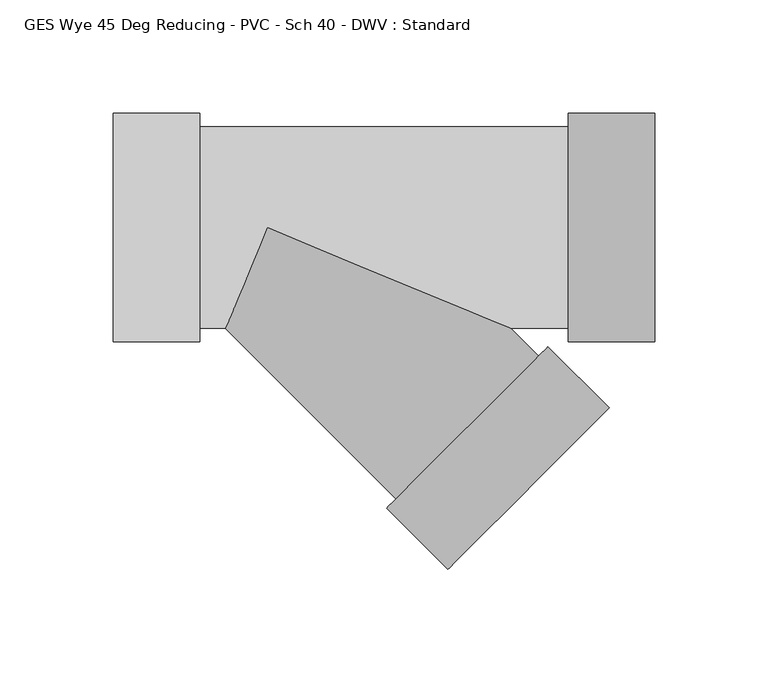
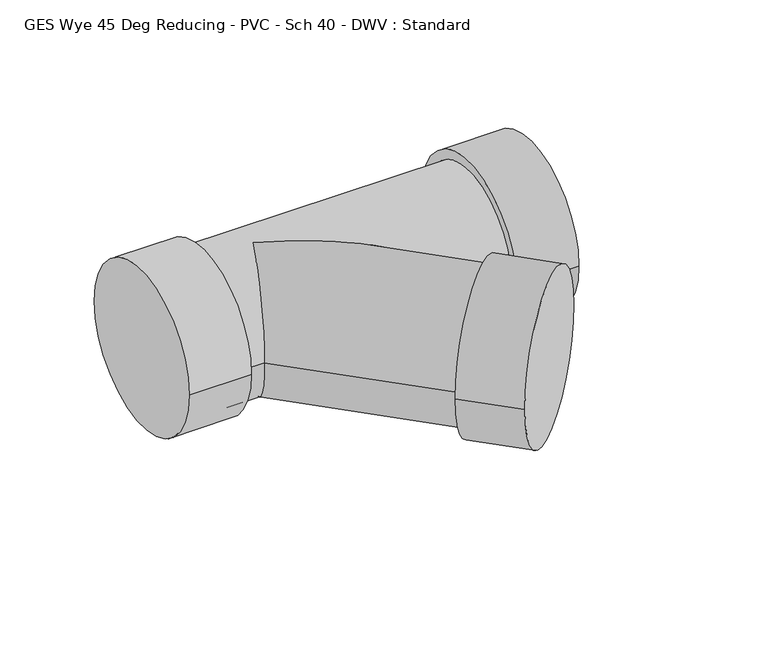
"""IFC4 building model written with IfcOpenShell, lengths in millimetres: pipe fitting geometry, GES Wye 45 Deg Reducing - PVC - Sch 40 - DWV : Standard."""

from ifc_helpers import new_model, si_unit, frame, origin, place, context, project, spatial, circle_curve, ellipse_curve, source, transform, mapped, element, save
from ifc_brep_helpers import plane_surface, cylinder_surface, advanced_brep


def ges_wye_45_deg_reducing_pvc_sch_40_dwv_standard_746e6be9(model_context):
    return source(origin(), model_context, "Body", "AdvancedBrep", [
        advanced_brep(
        [(-29.6902187, 50.2666, 0.0), (-29.6902187, -50.2666, 0.0), (-29.6902187, 44.45, 0.0), (-29.6902187, -44.45, 0.0), (-67.7902187, 50.2666, 0.0), (-67.7902187, -50.2666, 0.0), (132.5959375, -50.2666, 0.0), (132.5959375, 50.2666, 0.0), (132.5959375, -44.45, 0.0), (132.5959375, 44.45, 0.0), (170.6959375, -50.2666, 0.0), (170.6959375, 50.2666, 0.0), (107.3259959, -44.45, 0.0), (0.0, 0.0, -44.45), (-18.4093563, -44.45, 0.0), (0.0, 0.0, 44.45), (56.7411525, -119.5864454, 0.0), (119.5970627, -56.7187704, 0.0), (52.6285801, -123.6997876, 0.0), (123.7096351, -52.6054283, 0.0), (79.5718694, -150.6380348, 0.0), (150.6529244, -79.5436755, 0.0)],
        [
            (0, 1, circle_curve(frame((-29.6902187, 0.0, 0.0), z_axis=(1.0, 0.0, 0.0), x_axis=(0.0, -1.0, 0.0)), 50.2666)),
            (1, 0, circle_curve(frame((-29.6902187, 0.0, 0.0), z_axis=(1.0, 0.0, 0.0), x_axis=(0.0, -1.0, 0.0)), 50.2666)),
            (2, 3, circle_curve(frame((-29.6902187, 0.0, 0.0), z_axis=(-1.0, 0.0, 0.0), x_axis=(0.0, 0.0, -1.0)), 44.45)),
            (3, 2, circle_curve(frame((-29.6902187, 0.0, 0.0), z_axis=(-1.0, 0.0, 0.0), x_axis=(0.0, 0.0, 1.0)), 44.45)),
            (4, 5, circle_curve(frame((-67.7902187, 0.0, 0.0), z_axis=(-1.0, 0.0, 0.0), x_axis=(0.0, -1.0, 0.0)), 50.2666)),
            (5, 4, circle_curve(frame((-67.7902187, 0.0, 0.0), z_axis=(-1.0, 0.0, 0.0), x_axis=(0.0, -1.0, 0.0)), 50.2666)),
            (0, 4),
            (5, 1),
            (6, 7, circle_curve(frame((132.5959375, 0.0, 0.0), z_axis=(-1.0, 0.0, 0.0), x_axis=(0.0, 1.0, 0.0)), 50.2666)),
            (7, 6, circle_curve(frame((132.5959375, 0.0, 0.0), z_axis=(-1.0, 0.0, 0.0), x_axis=(0.0, 1.0, 0.0)), 50.2666)),
            (8, 9, circle_curve(frame((132.5959375, 0.0, 0.0), z_axis=(1.0, 0.0, 0.0), x_axis=(0.0, 0.0, -1.0)), 44.45)),
            (9, 8, circle_curve(frame((132.5959375, 0.0, 0.0), z_axis=(1.0, 0.0, 0.0), x_axis=(0.0, 0.0, 1.0)), 44.45)),
            (10, 11, circle_curve(frame((170.6959375, 0.0, 0.0), z_axis=(1.0, 0.0, 0.0), x_axis=(0.0, 1.0, 0.0)), 50.2666)),
            (11, 10, circle_curve(frame((170.6959375, 0.0, 0.0), z_axis=(1.0, 0.0, 0.0), x_axis=(0.0, 1.0, 0.0)), 50.2666)),
            (6, 10),
            (11, 7),
            (2, 9),
            (8, 12),
            (12, 13, ellipse_curve(frame((0.0, 0.0, 0.0), z_axis=(0.3826402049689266, 0.9238974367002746, 0.0), x_axis=(0.9238974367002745, -0.38264020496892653, 0.0)), 116.1665696, 44.45)),
            (13, 14, ellipse_curve(frame((0.0, 0.0, 0.0), z_axis=(-0.9238974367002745, 0.38264020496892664, 0.0), x_axis=(0.38264020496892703, 0.9238974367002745, 0.0)), 48.1114009, 44.45)),
            (14, 3),
            (14, 15, ellipse_curve(frame((0.0, 0.0, 0.0), z_axis=(-0.9238974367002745, 0.38264020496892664, 0.0), x_axis=(0.38264020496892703, 0.9238974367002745, 0.0)), 48.1114009, 44.45)),
            (15, 12, ellipse_curve(frame((0.0, 0.0, 0.0), z_axis=(0.3826402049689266, 0.9238974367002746, 0.0), x_axis=(0.9238974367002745, -0.38264020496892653, 0.0)), 116.1665696, 44.45)),
            (14, 16),
            (16, 17, circle_curve(frame((88.1691076, -88.1526079, 0.0), z_axis=(-0.7071729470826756, 0.7070406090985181, 0.0), x_axis=(0.7070406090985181, 0.7071729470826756, 0.0)), 44.45)),
            (17, 12),
            (17, 16, circle_curve(frame((88.1691076, -88.1526079, 0.0), z_axis=(-0.7071729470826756, 0.7070406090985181, 0.0), x_axis=(0.7070406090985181, 0.7071729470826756, 0.0)), 44.45)),
            (18, 19, circle_curve(frame((88.1691076, -88.1526079, 0.0), z_axis=(-0.7071729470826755, 0.7070406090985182, 0.0), x_axis=(0.7070406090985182, 0.7071729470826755, 0.0)), 50.2666)),
            (19, 18, circle_curve(frame((88.1691076, -88.1526079, 0.0), z_axis=(-0.7071729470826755, 0.7070406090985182, 0.0), x_axis=(0.7070406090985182, 0.7071729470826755, 0.0)), 50.2666)),
            (20, 21, circle_curve(frame((115.1123969, -115.0908551, 0.0), z_axis=(0.7071729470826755, -0.7070406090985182, 0.0), x_axis=(0.7070406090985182, 0.7071729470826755, 0.0)), 50.2666)),
            (21, 20, circle_curve(frame((115.1123969, -115.0908551, 0.0), z_axis=(0.7071729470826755, -0.7070406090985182, 0.0), x_axis=(0.7070406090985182, 0.7071729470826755, 0.0)), 50.2666)),
            (18, 20),
            (21, 19),
        ],
        [
            plane_surface(frame((-29.6902187, 0.0, 0.0), z_axis=(1.0, 0.0, 0.0), x_axis=(0.0, 0.0, 1.0))),
            plane_surface(frame((-67.7902187, 0.0, 0.0), z_axis=(-1.0, 0.0, 0.0), x_axis=(0.0, 0.0, 1.0))),
            cylinder_surface(frame((-29.6902187, 0.0, 0.0), z_axis=(1.0, 0.0, 0.0), x_axis=(0.0, -1.0, 0.0)), 50.2666),
            plane_surface(frame((132.5959375, 0.0, 0.0), z_axis=(-1.0, 0.0, 0.0), x_axis=(0.0, 0.0, 1.0))),
            plane_surface(frame((170.6959375, 0.0, 0.0), z_axis=(1.0, 0.0, 0.0), x_axis=(0.0, 0.0, 1.0))),
            cylinder_surface(frame((132.5959375, 0.0, 0.0), z_axis=(-1.0, 0.0, 0.0), x_axis=(0.0, 1.0, 0.0)), 50.2666),
            cylinder_surface(frame((-29.6902187, 0.0, 0.0), z_axis=(1.0, 0.0, 0.0), x_axis=(0.0, 0.0, -1.0)), 44.45),
            cylinder_surface(frame((-29.6902187, 0.0, 0.0), z_axis=(1.0, 0.0, 0.0), x_axis=(0.0, 0.0, 1.0)), 44.45),
            cylinder_surface(frame((0.0, 0.0, 0.0), z_axis=(-0.7071729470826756, 0.7070406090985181, 0.0), x_axis=(0.7070406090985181, 0.7071729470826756, 0.0)), 44.45),
            plane_surface(frame((88.1691076, -88.1526079, 0.0), z_axis=(-0.7071729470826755, 0.7070406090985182, 0.0), x_axis=(0.0, 0.0, 1.0))),
            plane_surface(frame((115.1123969, -115.0908551, 0.0), z_axis=(0.7071729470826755, -0.7070406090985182, 0.0), x_axis=(0.0, 0.0, 1.0))),
            cylinder_surface(frame((88.1691076, -88.1526079, 0.0), z_axis=(-0.7071729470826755, 0.7070406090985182, 0.0), x_axis=(0.7070406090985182, 0.7071729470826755, 0.0)), 50.2666),
        ],
        [
            (0, [[1, 2], [3, 4]]),
            (1, [[5, 6]]),
            (2, [[-1, 7, -6, 8]]),
            (2, [[-2, -8, -5, -7]]),
            (3, [[9, 10], [11, 12]]),
            (4, [[13, 14]]),
            (5, [[-9, 15, -14, 16]]),
            (5, [[-10, -16, -13, -15]]),
            (6, [[17, -11, 18, 19, 20, 21, -3]]),
            (7, [[-17, -4, -21, 22, 23, -18, -12]]),
            (8, [[24, 25, 26, -23, -22]]),
            (8, [[-24, -20, -19, -26, 27]]),
            (9, [[28, 29], [-25, -27]]),
            (10, [[30, 31]]),
            (11, [[-28, 32, -31, 33]]),
            (11, [[-29, -33, -30, -32]]),
        ],
    ),
    ])


if __name__ == "__main__":
    model = new_model("IFC4")
    model_context = context("Model", 3, world=origin())
    ifc_project = project(units=[si_unit("LENGTHUNIT", "METRE", prefix="MILLI")], contexts=[model_context])
    site = spatial("IfcSite", under=ifc_project)
    building = spatial("IfcBuilding", under=site)
    placement = place(None, origin())
    ges_wye_45_deg_reducing_pvc_sch_40_dwv_standard_shape = ges_wye_45_deg_reducing_pvc_sch_40_dwv_standard_746e6be9(model_context)
    element("IfcPipeFitting", 1, ObjectType="GES Wye 45 Deg Reducing - PVC - Sch 40 - DWV : Standard", at=placement, inside=building, context=model_context, shape_type="MappedRepresentation", body=[
        mapped(ges_wye_45_deg_reducing_pvc_sch_40_dwv_standard_shape, transform((0.0, 0.0, 0.0), x_axis=(1.0, 0.0, 0.0), y_axis=(0.0, 1.0, 0.0), z_axis=(0.0, 0.0, 1.0))),
    ])
    save(model, "model.ifc")
